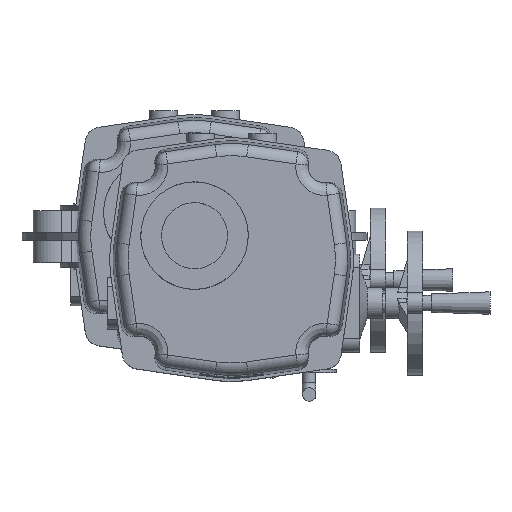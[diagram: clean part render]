
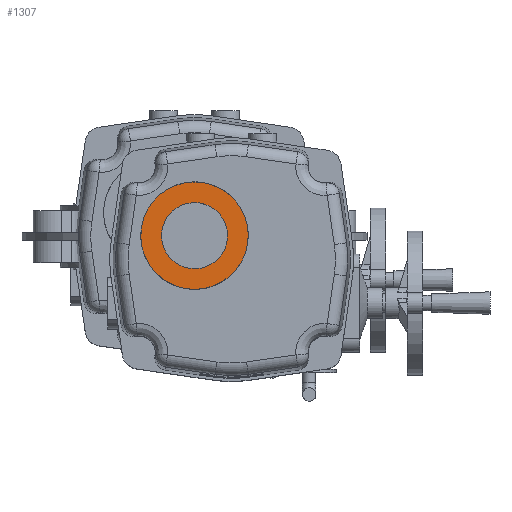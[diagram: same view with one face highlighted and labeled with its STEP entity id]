
A CAD part, top view. The second image highlights one B-rep face of the part: STEP entity #1307.
In plain terms, the highlighted planar face has unit normal (0, 0, 1).
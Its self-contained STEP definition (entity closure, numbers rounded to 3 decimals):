
#1307 = ADVANCED_FACE( '', ( #2935, #2936 ), #2937, .F. );
#2935 = FACE_BOUND( '', #8058, .T. );
#2936 = FACE_OUTER_BOUND( '', #8059, .T. );
#2937 = PLANE( '', #8060 );
#8058 = EDGE_LOOP( '', ( #13335 ) );
#8059 = EDGE_LOOP( '', ( #13336 ) );
#8060 = AXIS2_PLACEMENT_3D( '', #13337, #13338, #13339 );
#13335 = ORIENTED_EDGE( '', *, *, #17230, .T. );
#13336 = ORIENTED_EDGE( '', *, *, #17231, .F. );
#13337 = CARTESIAN_POINT( '', ( -36., 23., 165. ) );
#13338 = DIRECTION( '', ( 0., 0., -1. ) );
#13339 = DIRECTION( '', ( -1., 0., 0. ) );
#17230 = EDGE_CURVE( '', #20147, #20147, #20148, .T. );
#17231 = EDGE_CURVE( '', #20149, #20149, #20150, .T. );
#20147 = VERTEX_POINT( '', #30063 );
#20148 = CIRCLE( '', #30064, 32. );
#20149 = VERTEX_POINT( '', #30065 );
#20150 = CIRCLE( '', #30066, 52. );
#30063 = CARTESIAN_POINT( '', ( -40.599, -8.668, 165. ) );
#30064 = AXIS2_PLACEMENT_3D( '', #33638, #33639, #33640 );
#30065 = CARTESIAN_POINT( '', ( -43.473, -28.46, 165. ) );
#30066 = AXIS2_PLACEMENT_3D( '', #33641, #33642, #33643 );
#33638 = CARTESIAN_POINT( '', ( -36., 23., 165. ) );
#33639 = DIRECTION( '', ( 0., 0., -1. ) );
#33640 = DIRECTION( '', ( -0.144, -0.99, 0. ) );
#33641 = CARTESIAN_POINT( '', ( -36., 23., 165. ) );
#33642 = DIRECTION( '', ( 0., 0., -1. ) );
#33643 = DIRECTION( '', ( -0.144, -0.99, 0. ) );
